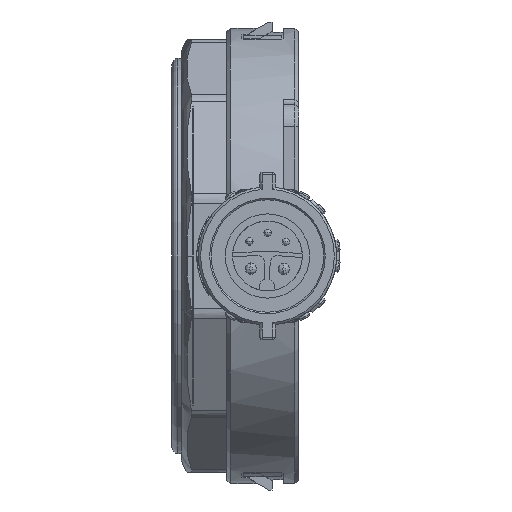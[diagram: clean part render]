
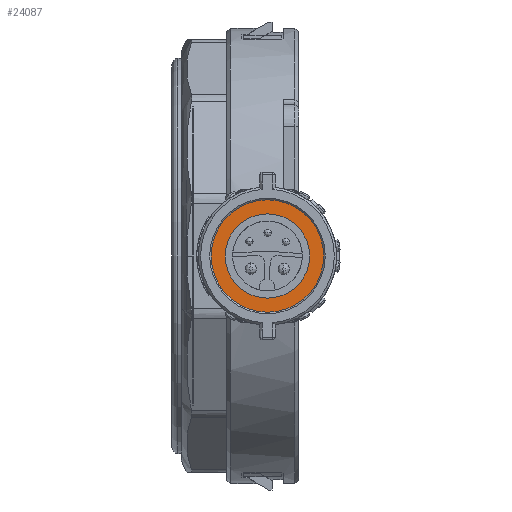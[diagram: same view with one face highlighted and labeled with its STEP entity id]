
A CAD part, left-side view. The second image highlights one B-rep face of the part: STEP entity #24087.
In plain terms, the highlighted planar face has unit normal (-1, 0, 0).
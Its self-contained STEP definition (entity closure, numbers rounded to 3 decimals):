
#3407 = CARTESIAN_POINT ( 'NONE',  ( 6.89, -5.55, 0. ) ) ;
#13133 = ORIENTED_EDGE ( 'NONE', *, *, #47629, .F. ) ;
#20685 = CARTESIAN_POINT ( 'NONE',  ( 6.89, 0., 0. ) ) ;
#20708 = EDGE_LOOP ( 'NONE', ( #13133 ) ) ;
#24087 = ADVANCED_FACE ( 'NONE', ( #65007, #72404 ), #47383, .T. ) ;
#24202 = AXIS2_PLACEMENT_3D ( 'NONE', #20685, #69126, #73831 ) ;
#24482 = CIRCLE ( 'NONE', #51827, 5.55 ) ;
#30630 = DIRECTION ( 'NONE',  ( -1., 0., 0. ) ) ;
#30687 = AXIS2_PLACEMENT_3D ( 'NONE', #36092, #30630, #35698 ) ;
#35698 = DIRECTION ( 'NONE',  ( 0., -1., 0. ) ) ;
#36092 = CARTESIAN_POINT ( 'NONE',  ( 6.89, 0., 0. ) ) ;
#41846 = ORIENTED_EDGE ( 'NONE', *, *, #49434, .F. ) ;
#47383 = PLANE ( 'NONE',  #30687 ) ;
#47629 = EDGE_CURVE ( 'NONE', #74111, #74111, #66647, .T. ) ;
#49434 = EDGE_CURVE ( 'NONE', #62772, #62772, #24482, .T. ) ;
#51827 = AXIS2_PLACEMENT_3D ( 'NONE', #71214, #59109, #70448 ) ;
#59109 = DIRECTION ( 'NONE',  ( -1., 0., 0. ) ) ;
#62772 = VERTEX_POINT ( 'NONE', #3407 ) ;
#65007 = FACE_BOUND ( 'NONE', #68010, .T. ) ;
#66647 = CIRCLE ( 'NONE', #24202, 7.4 ) ;
#67885 = CARTESIAN_POINT ( 'NONE',  ( 6.89, -7.4, 0. ) ) ;
#68010 = EDGE_LOOP ( 'NONE', ( #41846 ) ) ;
#69126 = DIRECTION ( 'NONE',  ( 1., 0., 0. ) ) ;
#70448 = DIRECTION ( 'NONE',  ( 0., -1., 0. ) ) ;
#71214 = CARTESIAN_POINT ( 'NONE',  ( 6.89, 0., 0. ) ) ;
#72404 = FACE_OUTER_BOUND ( 'NONE', #20708, .T. ) ;
#73831 = DIRECTION ( 'NONE',  ( 0., -1., 0. ) ) ;
#74111 = VERTEX_POINT ( 'NONE', #67885 ) ;
